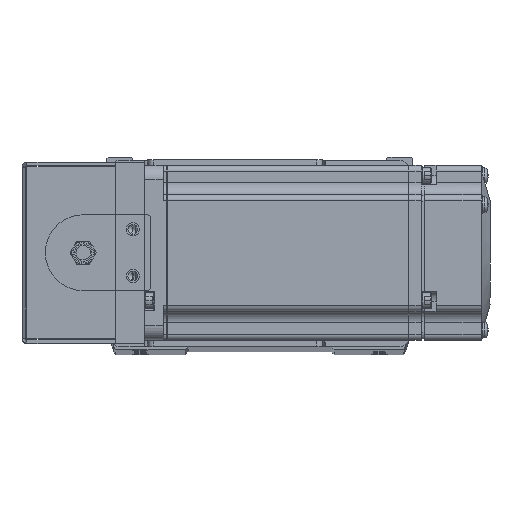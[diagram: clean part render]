
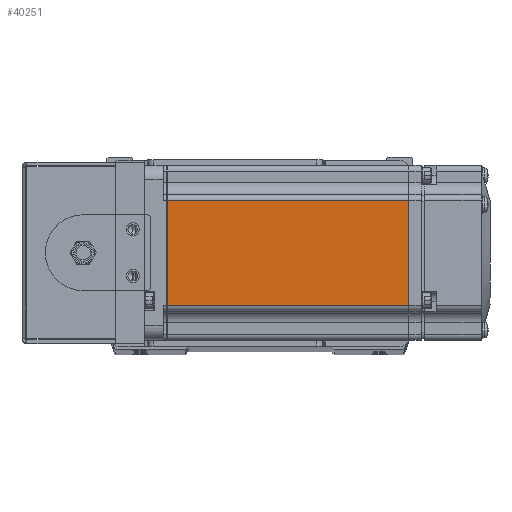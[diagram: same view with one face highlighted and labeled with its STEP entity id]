
A CAD part, top view. The second image highlights one B-rep face of the part: STEP entity #40251.
In plain terms, the highlighted planar face has unit normal (0, 0, 1) as drawn and (0, -1, 0) by its records, which use the part's own axes.
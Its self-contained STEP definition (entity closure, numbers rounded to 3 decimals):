
#1250 = EDGE_CURVE ( 'NONE', #3468, #24078, #3856, .T. ) ;
#3371 = DIRECTION ( 'NONE',  ( -1., 0., 0. ) ) ;
#3406 = CARTESIAN_POINT ( 'NONE',  ( -90.45, -30., 18. ) ) ;
#3468 = VERTEX_POINT ( 'NONE', #29890 ) ;
#3856 = LINE ( 'NONE', #41867, #40098 ) ;
#4887 = DIRECTION ( 'NONE',  ( 0., 0., -1. ) ) ;
#7268 = AXIS2_PLACEMENT_3D ( 'NONE', #39024, #43014, #23908 ) ;
#8361 = LINE ( 'NONE', #26502, #32786 ) ;
#9034 = CARTESIAN_POINT ( 'NONE',  ( -6.5, -30., 18. ) ) ;
#9356 = EDGE_CURVE ( 'NONE', #22877, #24078, #8361, .T. ) ;
#9707 = VECTOR ( 'NONE', #14231, 1000. ) ;
#12007 = DIRECTION ( 'NONE',  ( -1., 0., 0. ) ) ;
#12767 = LINE ( 'NONE', #9034, #45380 ) ;
#14231 = DIRECTION ( 'NONE',  ( 0., 0., -1. ) ) ;
#14977 = ORIENTED_EDGE ( 'NONE', *, *, #1250, .F. ) ;
#21812 = CARTESIAN_POINT ( 'NONE',  ( -7.75, -30., 18. ) ) ;
#22877 = VERTEX_POINT ( 'NONE', #3406 ) ;
#23753 = ORIENTED_EDGE ( 'NONE', *, *, #9356, .T. ) ;
#23908 = DIRECTION ( 'NONE',  ( 0., 0., -1. ) ) ;
#24078 = VERTEX_POINT ( 'NONE', #36853 ) ;
#26502 = CARTESIAN_POINT ( 'NONE',  ( -90.45, -30., 0. ) ) ;
#28672 = EDGE_CURVE ( 'NONE', #46007, #22877, #12767, .T. ) ;
#28889 = EDGE_CURVE ( 'NONE', #46007, #3468, #41777, .T. ) ;
#29758 = EDGE_LOOP ( 'NONE', ( #45509, #36282, #23753, #14977 ) ) ;
#29890 = CARTESIAN_POINT ( 'NONE',  ( -7.75, -30., -18. ) ) ;
#32786 = VECTOR ( 'NONE', #4887, 1000. ) ;
#36282 = ORIENTED_EDGE ( 'NONE', *, *, #28672, .T. ) ;
#36853 = CARTESIAN_POINT ( 'NONE',  ( -90.45, -30., -18. ) ) ;
#39024 = CARTESIAN_POINT ( 'NONE',  ( -6.5, -30., -25. ) ) ;
#40009 = PLANE ( 'NONE',  #7268 ) ;
#40098 = VECTOR ( 'NONE', #3371, 1000. ) ;
#40251 = ADVANCED_FACE ( 'NONE', ( #46989 ), #40009, .T. ) ;
#40800 = CARTESIAN_POINT ( 'NONE',  ( -7.75, -30., 0. ) ) ;
#41777 = LINE ( 'NONE', #40800, #9707 ) ;
#41867 = CARTESIAN_POINT ( 'NONE',  ( -6.5, -30., -18. ) ) ;
#43014 = DIRECTION ( 'NONE',  ( 0., -1., 0. ) ) ;
#45380 = VECTOR ( 'NONE', #12007, 1000. ) ;
#45509 = ORIENTED_EDGE ( 'NONE', *, *, #28889, .F. ) ;
#46007 = VERTEX_POINT ( 'NONE', #21812 ) ;
#46989 = FACE_OUTER_BOUND ( 'NONE', #29758, .T. ) ;
